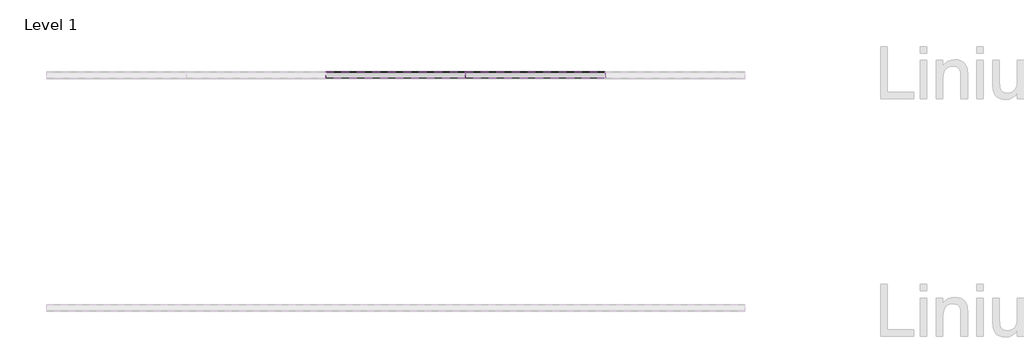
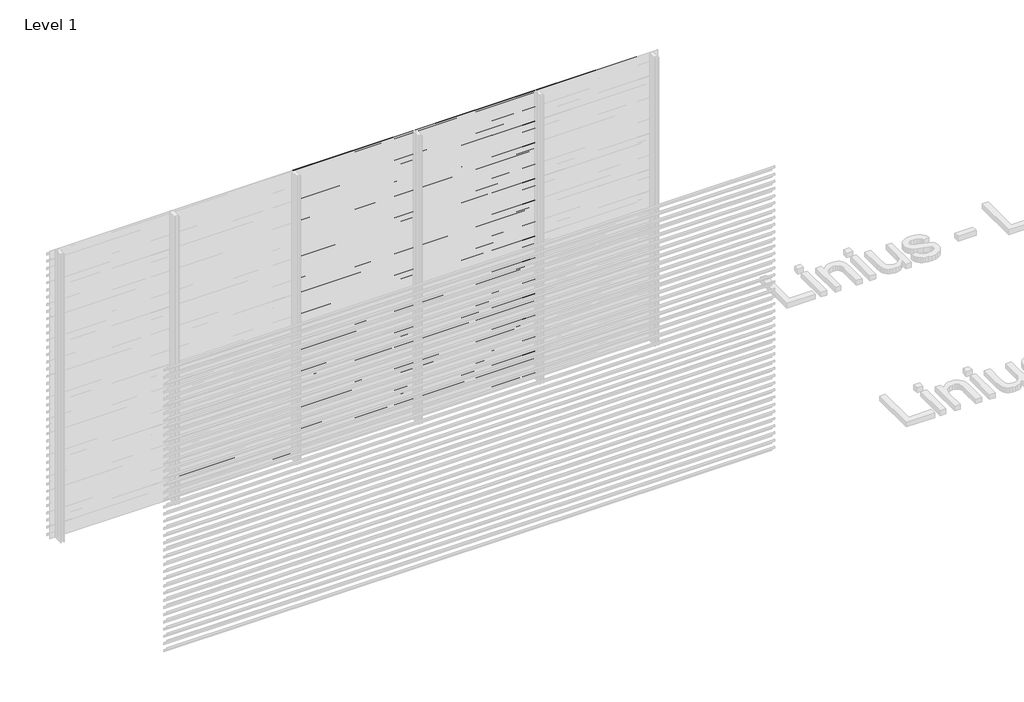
# One storey, part 38 of 55: 84 proxies.
"""IFC4 building model written with IfcOpenShell, lengths in millimetres."""

from ifc_helpers import new_model, si_unit, frame, origin, place, context, project, spatial, polyline, outline, extrude, element, save

model = new_model("IFC4")

# Units and contexts
model_context = context("Model", 3, world=origin())
ifc_project = project(units=[si_unit("LENGTHUNIT", "METRE", prefix="MILLI")], contexts=[model_context])

# Site, building, storey
site = spatial("IfcSite", under=ifc_project)
building = spatial("IfcBuilding", under=site)
storey = spatial("IfcBuildingStorey", under=building, Name="Level 1", Elevation=0.0)

# Proxies
placement = place(None, origin())
element("IfcBuildingElementProxy", 1, Name="Wall Sweeps", at=placement, inside=storey, context=model_context, shape_type="SweptSolid", body=[
    extrude(outline(polyline([(51581.0540136, 168.5), (51581.0540136, 148.5), (51579.8040136, 149.2216933), (51579.8040136, 167.7872415), (51526.0540136, 205.3158044), (51526.0540136, 225.0), (51527.3040136, 225.0), (51527.3040136, 206.0285629), (51581.0540136, 168.5)])), frame((1666.6208099, 0.0, 0.0), z_axis=(1.0, 0.0, 0.0), x_axis=(0.0, 1.0, 0.0)), (0.0, 0.0, 1.0), 1199.9999999),
])
element("IfcBuildingElementProxy", 2, Name="Wall Sweeps", at=placement, inside=storey, context=model_context, shape_type="SweptSolid", body=[
    extrude(outline(polyline([(51581.0540136, 93.5), (51581.0540136, 73.5), (51579.8040136, 74.2216933), (51579.8040136, 92.7872415), (51526.0540136, 130.3158044), (51526.0540136, 150.0), (51527.3040136, 150.0), (51527.3040136, 131.0285629), (51581.0540136, 93.5)])), frame((1666.6208099, 0.0, 0.0), z_axis=(1.0, 0.0, 0.0), x_axis=(0.0, 1.0, 0.0)), (0.0, 0.0, 1.0), 1199.9999999),
])
element("IfcBuildingElementProxy", 3, Name="Wall Sweeps", at=placement, inside=storey, context=model_context, shape_type="SweptSolid", body=[
    extrude(outline(polyline([(51581.0540136, 18.5), (51581.0540136, -1.5), (51579.8040136, -0.7783067), (51579.8040136, 17.7872415), (51526.0540136, 55.3158044), (51526.0540136, 75.0), (51527.3040136, 75.0), (51527.3040136, 56.0285629), (51581.0540136, 18.5)])), frame((1666.6208099, 0.0, 0.0), z_axis=(1.0, 0.0, 0.0), x_axis=(0.0, 1.0, 0.0)), (0.0, 0.0, 1.0), 1199.9999999),
])
element("IfcBuildingElementProxy", 4, Name="Wall Sweeps", at=placement, inside=storey, context=model_context, shape_type="SweptSolid", body=[
    extrude(outline(polyline([(51581.0540136, 2943.5), (51581.0540136, 2923.5), (51579.8040136, 2924.2216933), (51579.8040136, 2942.7872415), (51526.0540136, 2980.3158044), (51526.0540136, 3000.0), (51527.3040136, 3000.0), (51527.3040136, 2981.0285629), (51581.0540136, 2943.5)])), frame((2866.6208097, 0.0, 0.0), z_axis=(1.0, 0.0, 0.0), x_axis=(0.0, 1.0, 0.0)), (0.0, 0.0, 1.0), 1199.9999999),
])
element("IfcBuildingElementProxy", 5, Name="Wall Sweeps", at=placement, inside=storey, context=model_context, shape_type="SweptSolid", body=[
    extrude(outline(polyline([(51581.0540136, 2868.5), (51581.0540136, 2848.5), (51579.8040136, 2849.2216933), (51579.8040136, 2867.7872415), (51526.0540136, 2905.3158044), (51526.0540136, 2925.0), (51527.3040136, 2925.0), (51527.3040136, 2906.0285629), (51581.0540136, 2868.5)])), frame((2866.6208097, 0.0, 0.0), z_axis=(1.0, 0.0, 0.0), x_axis=(0.0, 1.0, 0.0)), (0.0, 0.0, 1.0), 1199.9999999),
])
element("IfcBuildingElementProxy", 6, Name="Wall Sweeps", at=placement, inside=storey, context=model_context, shape_type="SweptSolid", body=[
    extrude(outline(polyline([(51581.0540136, 2793.5), (51581.0540136, 2773.5), (51579.8040136, 2774.2216933), (51579.8040136, 2792.7872415), (51526.0540136, 2830.3158044), (51526.0540136, 2850.0), (51527.3040136, 2850.0), (51527.3040136, 2831.0285629), (51581.0540136, 2793.5)])), frame((2866.6208097, 0.0, 0.0), z_axis=(1.0, 0.0, 0.0), x_axis=(0.0, 1.0, 0.0)), (0.0, 0.0, 1.0), 1199.9999999),
])
element("IfcBuildingElementProxy", 7, Name="Wall Sweeps", at=placement, inside=storey, context=model_context, shape_type="SweptSolid", body=[
    extrude(outline(polyline([(51581.0540136, 2718.5), (51581.0540136, 2698.5), (51579.8040136, 2699.2216933), (51579.8040136, 2717.7872415), (51526.0540136, 2755.3158044), (51526.0540136, 2775.0), (51527.3040136, 2775.0), (51527.3040136, 2756.0285629), (51581.0540136, 2718.5)])), frame((2866.6208097, 0.0, 0.0), z_axis=(1.0, 0.0, 0.0), x_axis=(0.0, 1.0, 0.0)), (0.0, 0.0, 1.0), 1199.9999999),
])
element("IfcBuildingElementProxy", 8, Name="Wall Sweeps", at=placement, inside=storey, context=model_context, shape_type="SweptSolid", body=[
    extrude(outline(polyline([(51581.0540136, 2643.5), (51581.0540136, 2623.5), (51579.8040136, 2624.2216933), (51579.8040136, 2642.7872415), (51526.0540136, 2680.3158044), (51526.0540136, 2700.0), (51527.3040136, 2700.0), (51527.3040136, 2681.0285629), (51581.0540136, 2643.5)])), frame((2866.6208097, 0.0, 0.0), z_axis=(1.0, 0.0, 0.0), x_axis=(0.0, 1.0, 0.0)), (0.0, 0.0, 1.0), 1199.9999999),
])
element("IfcBuildingElementProxy", 9, Name="Wall Sweeps", at=placement, inside=storey, context=model_context, shape_type="SweptSolid", body=[
    extrude(outline(polyline([(51581.0540136, 2568.5), (51581.0540136, 2548.5), (51579.8040136, 2549.2216933), (51579.8040136, 2567.7872415), (51526.0540136, 2605.3158044), (51526.0540136, 2625.0), (51527.3040136, 2625.0), (51527.3040136, 2606.0285629), (51581.0540136, 2568.5)])), frame((2866.6208097, 0.0, 0.0), z_axis=(1.0, 0.0, 0.0), x_axis=(0.0, 1.0, 0.0)), (0.0, 0.0, 1.0), 1199.9999999),
])
element("IfcBuildingElementProxy", 10, Name="Wall Sweeps", at=placement, inside=storey, context=model_context, shape_type="SweptSolid", body=[
    extrude(outline(polyline([(51581.0540136, 2493.5), (51581.0540136, 2473.5), (51579.8040136, 2474.2216933), (51579.8040136, 2492.7872415), (51526.0540136, 2530.3158044), (51526.0540136, 2550.0), (51527.3040136, 2550.0), (51527.3040136, 2531.0285629), (51581.0540136, 2493.5)])), frame((2866.6208097, 0.0, 0.0), z_axis=(1.0, 0.0, 0.0), x_axis=(0.0, 1.0, 0.0)), (0.0, 0.0, 1.0), 1199.9999999),
])
element("IfcBuildingElementProxy", 11, Name="Wall Sweeps", at=placement, inside=storey, context=model_context, shape_type="SweptSolid", body=[
    extrude(outline(polyline([(51581.0540136, 2418.5), (51581.0540136, 2398.5), (51579.8040136, 2399.2216933), (51579.8040136, 2417.7872415), (51526.0540136, 2455.3158044), (51526.0540136, 2475.0), (51527.3040136, 2475.0), (51527.3040136, 2456.0285629), (51581.0540136, 2418.5)])), frame((2866.6208097, 0.0, 0.0), z_axis=(1.0, 0.0, 0.0), x_axis=(0.0, 1.0, 0.0)), (0.0, 0.0, 1.0), 1199.9999999),
])
element("IfcBuildingElementProxy", 12, Name="Wall Sweeps", at=placement, inside=storey, context=model_context, shape_type="SweptSolid", body=[
    extrude(outline(polyline([(51581.0540136, 2343.5), (51581.0540136, 2323.5), (51579.8040136, 2324.2216933), (51579.8040136, 2342.7872415), (51526.0540136, 2380.3158044), (51526.0540136, 2400.0), (51527.3040136, 2400.0), (51527.3040136, 2381.0285629), (51581.0540136, 2343.5)])), frame((2866.6208097, 0.0, 0.0), z_axis=(1.0, 0.0, 0.0), x_axis=(0.0, 1.0, 0.0)), (0.0, 0.0, 1.0), 1199.9999999),
])
element("IfcBuildingElementProxy", 13, Name="Wall Sweeps", at=placement, inside=storey, context=model_context, shape_type="SweptSolid", body=[
    extrude(outline(polyline([(51581.0540136, 2268.5), (51581.0540136, 2248.5), (51579.8040136, 2249.2216933), (51579.8040136, 2267.7872415), (51526.0540136, 2305.3158044), (51526.0540136, 2325.0), (51527.3040136, 2325.0), (51527.3040136, 2306.0285629), (51581.0540136, 2268.5)])), frame((2866.6208097, 0.0, 0.0), z_axis=(1.0, 0.0, 0.0), x_axis=(0.0, 1.0, 0.0)), (0.0, 0.0, 1.0), 1199.9999999),
])
element("IfcBuildingElementProxy", 14, Name="Wall Sweeps", at=placement, inside=storey, context=model_context, shape_type="SweptSolid", body=[
    extrude(outline(polyline([(51581.0540136, 2193.5), (51581.0540136, 2173.5), (51579.8040136, 2174.2216933), (51579.8040136, 2192.7872415), (51526.0540136, 2230.3158044), (51526.0540136, 2250.0), (51527.3040136, 2250.0), (51527.3040136, 2231.0285629), (51581.0540136, 2193.5)])), frame((2866.6208097, 0.0, 0.0), z_axis=(1.0, 0.0, 0.0), x_axis=(0.0, 1.0, 0.0)), (0.0, 0.0, 1.0), 1199.9999999),
])
element("IfcBuildingElementProxy", 15, Name="Wall Sweeps", at=placement, inside=storey, context=model_context, shape_type="SweptSolid", body=[
    extrude(outline(polyline([(51581.0540136, 2118.5), (51581.0540136, 2098.5), (51579.8040136, 2099.2216933), (51579.8040136, 2117.7872415), (51526.0540136, 2155.3158044), (51526.0540136, 2175.0), (51527.3040136, 2175.0), (51527.3040136, 2156.0285629), (51581.0540136, 2118.5)])), frame((2866.6208097, 0.0, 0.0), z_axis=(1.0, 0.0, 0.0), x_axis=(0.0, 1.0, 0.0)), (0.0, 0.0, 1.0), 1199.9999999),
])
element("IfcBuildingElementProxy", 16, Name="Wall Sweeps", at=placement, inside=storey, context=model_context, shape_type="SweptSolid", body=[
    extrude(outline(polyline([(51581.0540136, 2043.5), (51581.0540136, 2023.5), (51579.8040136, 2024.2216933), (51579.8040136, 2042.7872415), (51526.0540136, 2080.3158044), (51526.0540136, 2100.0), (51527.3040136, 2100.0), (51527.3040136, 2081.0285629), (51581.0540136, 2043.5)])), frame((2866.6208097, 0.0, 0.0), z_axis=(1.0, 0.0, 0.0), x_axis=(0.0, 1.0, 0.0)), (0.0, 0.0, 1.0), 1199.9999999),
])
element("IfcBuildingElementProxy", 17, Name="Wall Sweeps", at=placement, inside=storey, context=model_context, shape_type="SweptSolid", body=[
    extrude(outline(polyline([(51581.0540136, 1968.5), (51581.0540136, 1948.5), (51579.8040136, 1949.2216933), (51579.8040136, 1967.7872415), (51526.0540136, 2005.3158044), (51526.0540136, 2025.0), (51527.3040136, 2025.0), (51527.3040136, 2006.0285629), (51581.0540136, 1968.5)])), frame((2866.6208097, 0.0, 0.0), z_axis=(1.0, 0.0, 0.0), x_axis=(0.0, 1.0, 0.0)), (0.0, 0.0, 1.0), 1199.9999999),
])
element("IfcBuildingElementProxy", 18, Name="Wall Sweeps", at=placement, inside=storey, context=model_context, shape_type="SweptSolid", body=[
    extrude(outline(polyline([(51581.0540136, 1893.5), (51581.0540136, 1873.5), (51579.8040136, 1874.2216933), (51579.8040136, 1892.7872415), (51526.0540136, 1930.3158044), (51526.0540136, 1950.0), (51527.3040136, 1950.0), (51527.3040136, 1931.0285629), (51581.0540136, 1893.5)])), frame((2866.6208097, 0.0, 0.0), z_axis=(1.0, 0.0, 0.0), x_axis=(0.0, 1.0, 0.0)), (0.0, 0.0, 1.0), 1199.9999999),
])
element("IfcBuildingElementProxy", 19, Name="Wall Sweeps", at=placement, inside=storey, context=model_context, shape_type="SweptSolid", body=[
    extrude(outline(polyline([(51581.0540136, 1818.5), (51581.0540136, 1798.5), (51579.8040136, 1799.2216933), (51579.8040136, 1817.7872415), (51526.0540136, 1855.3158044), (51526.0540136, 1875.0), (51527.3040136, 1875.0), (51527.3040136, 1856.0285629), (51581.0540136, 1818.5)])), frame((2866.6208097, 0.0, 0.0), z_axis=(1.0, 0.0, 0.0), x_axis=(0.0, 1.0, 0.0)), (0.0, 0.0, 1.0), 1199.9999999),
])
element("IfcBuildingElementProxy", 20, Name="Wall Sweeps", at=placement, inside=storey, context=model_context, shape_type="SweptSolid", body=[
    extrude(outline(polyline([(51581.0540136, 1743.5), (51581.0540136, 1723.5), (51579.8040136, 1724.2216933), (51579.8040136, 1742.7872415), (51526.0540136, 1780.3158044), (51526.0540136, 1800.0), (51527.3040136, 1800.0), (51527.3040136, 1781.0285629), (51581.0540136, 1743.5)])), frame((2866.6208097, 0.0, 0.0), z_axis=(1.0, 0.0, 0.0), x_axis=(0.0, 1.0, 0.0)), (0.0, 0.0, 1.0), 1199.9999999),
])
element("IfcBuildingElementProxy", 21, Name="Wall Sweeps", at=placement, inside=storey, context=model_context, shape_type="SweptSolid", body=[
    extrude(outline(polyline([(51581.0540136, 1668.5), (51581.0540136, 1648.5), (51579.8040136, 1649.2216933), (51579.8040136, 1667.7872415), (51526.0540136, 1705.3158044), (51526.0540136, 1725.0), (51527.3040136, 1725.0), (51527.3040136, 1706.0285629), (51581.0540136, 1668.5)])), frame((2866.6208097, 0.0, 0.0), z_axis=(1.0, 0.0, 0.0), x_axis=(0.0, 1.0, 0.0)), (0.0, 0.0, 1.0), 1199.9999999),
])
element("IfcBuildingElementProxy", 22, Name="Wall Sweeps", at=placement, inside=storey, context=model_context, shape_type="SweptSolid", body=[
    extrude(outline(polyline([(51581.0540136, 1593.5), (51581.0540136, 1573.5), (51579.8040136, 1574.2216933), (51579.8040136, 1592.7872415), (51526.0540136, 1630.3158044), (51526.0540136, 1650.0), (51527.3040136, 1650.0), (51527.3040136, 1631.0285629), (51581.0540136, 1593.5)])), frame((2866.6208097, 0.0, 0.0), z_axis=(1.0, 0.0, 0.0), x_axis=(0.0, 1.0, 0.0)), (0.0, 0.0, 1.0), 1199.9999999),
])
element("IfcBuildingElementProxy", 23, Name="Wall Sweeps", at=placement, inside=storey, context=model_context, shape_type="SweptSolid", body=[
    extrude(outline(polyline([(51581.0540136, 1518.5), (51581.0540136, 1498.5), (51579.8040136, 1499.2216933), (51579.8040136, 1517.7872415), (51526.0540136, 1555.3158044), (51526.0540136, 1575.0), (51527.3040136, 1575.0), (51527.3040136, 1556.0285629), (51581.0540136, 1518.5)])), frame((2866.6208097, 0.0, 0.0), z_axis=(1.0, 0.0, 0.0), x_axis=(0.0, 1.0, 0.0)), (0.0, 0.0, 1.0), 1199.9999999),
])
element("IfcBuildingElementProxy", 24, Name="Wall Sweeps", at=placement, inside=storey, context=model_context, shape_type="SweptSolid", body=[
    extrude(outline(polyline([(51581.0540136, 1443.5), (51581.0540136, 1423.5), (51579.8040136, 1424.2216933), (51579.8040136, 1442.7872415), (51526.0540136, 1480.3158044), (51526.0540136, 1500.0), (51527.3040136, 1500.0), (51527.3040136, 1481.0285629), (51581.0540136, 1443.5)])), frame((2866.6208097, 0.0, 0.0), z_axis=(1.0, 0.0, 0.0), x_axis=(0.0, 1.0, 0.0)), (0.0, 0.0, 1.0), 1199.9999999),
])
element("IfcBuildingElementProxy", 25, Name="Wall Sweeps", at=placement, inside=storey, context=model_context, shape_type="SweptSolid", body=[
    extrude(outline(polyline([(51581.0540136, 1368.5), (51581.0540136, 1348.5), (51579.8040136, 1349.2216933), (51579.8040136, 1367.7872415), (51526.0540136, 1405.3158044), (51526.0540136, 1425.0), (51527.3040136, 1425.0), (51527.3040136, 1406.0285629), (51581.0540136, 1368.5)])), frame((2866.6208097, 0.0, 0.0), z_axis=(1.0, 0.0, 0.0), x_axis=(0.0, 1.0, 0.0)), (0.0, 0.0, 1.0), 1199.9999999),
])
element("IfcBuildingElementProxy", 26, Name="Wall Sweeps", at=placement, inside=storey, context=model_context, shape_type="SweptSolid", body=[
    extrude(outline(polyline([(51581.0540136, 1293.5), (51581.0540136, 1273.5), (51579.8040136, 1274.2216933), (51579.8040136, 1292.7872415), (51526.0540136, 1330.3158044), (51526.0540136, 1350.0), (51527.3040136, 1350.0), (51527.3040136, 1331.0285629), (51581.0540136, 1293.5)])), frame((2866.6208097, 0.0, 0.0), z_axis=(1.0, 0.0, 0.0), x_axis=(0.0, 1.0, 0.0)), (0.0, 0.0, 1.0), 1199.9999999),
])
element("IfcBuildingElementProxy", 27, Name="Wall Sweeps", at=placement, inside=storey, context=model_context, shape_type="SweptSolid", body=[
    extrude(outline(polyline([(51581.0540136, 1218.5), (51581.0540136, 1198.5), (51579.8040136, 1199.2216933), (51579.8040136, 1217.7872415), (51526.0540136, 1255.3158044), (51526.0540136, 1275.0), (51527.3040136, 1275.0), (51527.3040136, 1256.0285629), (51581.0540136, 1218.5)])), frame((2866.6208097, 0.0, 0.0), z_axis=(1.0, 0.0, 0.0), x_axis=(0.0, 1.0, 0.0)), (0.0, 0.0, 1.0), 1199.9999999),
])
element("IfcBuildingElementProxy", 28, Name="Wall Sweeps", at=placement, inside=storey, context=model_context, shape_type="SweptSolid", body=[
    extrude(outline(polyline([(51581.0540136, 1143.5), (51581.0540136, 1123.5), (51579.8040136, 1124.2216933), (51579.8040136, 1142.7872415), (51526.0540136, 1180.3158044), (51526.0540136, 1200.0), (51527.3040136, 1200.0), (51527.3040136, 1181.0285629), (51581.0540136, 1143.5)])), frame((2866.6208097, 0.0, 0.0), z_axis=(1.0, 0.0, 0.0), x_axis=(0.0, 1.0, 0.0)), (0.0, 0.0, 1.0), 1199.9999999),
])
element("IfcBuildingElementProxy", 29, Name="Wall Sweeps", at=placement, inside=storey, context=model_context, shape_type="SweptSolid", body=[
    extrude(outline(polyline([(51581.0540136, 1068.5), (51581.0540136, 1048.5), (51579.8040136, 1049.2216933), (51579.8040136, 1067.7872415), (51526.0540136, 1105.3158044), (51526.0540136, 1125.0), (51527.3040136, 1125.0), (51527.3040136, 1106.0285629), (51581.0540136, 1068.5)])), frame((2866.6208097, 0.0, 0.0), z_axis=(1.0, 0.0, 0.0), x_axis=(0.0, 1.0, 0.0)), (0.0, 0.0, 1.0), 1199.9999999),
])
element("IfcBuildingElementProxy", 30, Name="Wall Sweeps", at=placement, inside=storey, context=model_context, shape_type="SweptSolid", body=[
    extrude(outline(polyline([(51581.0540136, 993.5), (51581.0540136, 973.5), (51579.8040136, 974.2216933), (51579.8040136, 992.7872415), (51526.0540136, 1030.3158044), (51526.0540136, 1050.0), (51527.3040136, 1050.0), (51527.3040136, 1031.0285629), (51581.0540136, 993.5)])), frame((2866.6208097, 0.0, 0.0), z_axis=(1.0, 0.0, 0.0), x_axis=(0.0, 1.0, 0.0)), (0.0, 0.0, 1.0), 1199.9999999),
])
element("IfcBuildingElementProxy", 31, Name="Wall Sweeps", at=placement, inside=storey, context=model_context, shape_type="SweptSolid", body=[
    extrude(outline(polyline([(51581.0540136, 918.5), (51581.0540136, 898.5), (51579.8040136, 899.2216933), (51579.8040136, 917.7872415), (51526.0540136, 955.3158044), (51526.0540136, 975.0), (51527.3040136, 975.0), (51527.3040136, 956.0285629), (51581.0540136, 918.5)])), frame((2866.6208097, 0.0, 0.0), z_axis=(1.0, 0.0, 0.0), x_axis=(0.0, 1.0, 0.0)), (0.0, 0.0, 1.0), 1199.9999999),
])
element("IfcBuildingElementProxy", 32, Name="Wall Sweeps", at=placement, inside=storey, context=model_context, shape_type="SweptSolid", body=[
    extrude(outline(polyline([(51581.0540136, 843.5), (51581.0540136, 823.5), (51579.8040136, 824.2216933), (51579.8040136, 842.7872415), (51526.0540136, 880.3158044), (51526.0540136, 900.0), (51527.3040136, 900.0), (51527.3040136, 881.0285629), (51581.0540136, 843.5)])), frame((2866.6208097, 0.0, 0.0), z_axis=(1.0, 0.0, 0.0), x_axis=(0.0, 1.0, 0.0)), (0.0, 0.0, 1.0), 1199.9999999),
])
element("IfcBuildingElementProxy", 33, Name="Wall Sweeps", at=placement, inside=storey, context=model_context, shape_type="SweptSolid", body=[
    extrude(outline(polyline([(51581.0540136, 768.5), (51581.0540136, 748.5), (51579.8040136, 749.2216933), (51579.8040136, 767.7872415), (51526.0540136, 805.3158044), (51526.0540136, 825.0), (51527.3040136, 825.0), (51527.3040136, 806.0285629), (51581.0540136, 768.5)])), frame((2866.6208097, 0.0, 0.0), z_axis=(1.0, 0.0, 0.0), x_axis=(0.0, 1.0, 0.0)), (0.0, 0.0, 1.0), 1199.9999999),
])
element("IfcBuildingElementProxy", 34, Name="Wall Sweeps", at=placement, inside=storey, context=model_context, shape_type="SweptSolid", body=[
    extrude(outline(polyline([(51581.0540136, 693.5), (51581.0540136, 673.5), (51579.8040136, 674.2216933), (51579.8040136, 692.7872415), (51526.0540136, 730.3158044), (51526.0540136, 750.0), (51527.3040136, 750.0), (51527.3040136, 731.0285629), (51581.0540136, 693.5)])), frame((2866.6208097, 0.0, 0.0), z_axis=(1.0, 0.0, 0.0), x_axis=(0.0, 1.0, 0.0)), (0.0, 0.0, 1.0), 1199.9999999),
])
element("IfcBuildingElementProxy", 35, Name="Wall Sweeps", at=placement, inside=storey, context=model_context, shape_type="SweptSolid", body=[
    extrude(outline(polyline([(51581.0540136, 618.5), (51581.0540136, 598.5), (51579.8040136, 599.2216933), (51579.8040136, 617.7872415), (51526.0540136, 655.3158044), (51526.0540136, 675.0), (51527.3040136, 675.0), (51527.3040136, 656.0285629), (51581.0540136, 618.5)])), frame((2866.6208097, 0.0, 0.0), z_axis=(1.0, 0.0, 0.0), x_axis=(0.0, 1.0, 0.0)), (0.0, 0.0, 1.0), 1199.9999999),
])
element("IfcBuildingElementProxy", 36, Name="Wall Sweeps", at=placement, inside=storey, context=model_context, shape_type="SweptSolid", body=[
    extrude(outline(polyline([(51581.0540136, 543.5), (51581.0540136, 523.5), (51579.8040136, 524.2216933), (51579.8040136, 542.7872415), (51526.0540136, 580.3158044), (51526.0540136, 600.0), (51527.3040136, 600.0), (51527.3040136, 581.0285629), (51581.0540136, 543.5)])), frame((2866.6208097, 0.0, 0.0), z_axis=(1.0, 0.0, 0.0), x_axis=(0.0, 1.0, 0.0)), (0.0, 0.0, 1.0), 1199.9999999),
])
element("IfcBuildingElementProxy", 37, Name="Wall Sweeps", at=placement, inside=storey, context=model_context, shape_type="SweptSolid", body=[
    extrude(outline(polyline([(51581.0540136, 468.5), (51581.0540136, 448.5), (51579.8040136, 449.2216933), (51579.8040136, 467.7872415), (51526.0540136, 505.3158044), (51526.0540136, 525.0), (51527.3040136, 525.0), (51527.3040136, 506.0285629), (51581.0540136, 468.5)])), frame((2866.6208097, 0.0, 0.0), z_axis=(1.0, 0.0, 0.0), x_axis=(0.0, 1.0, 0.0)), (0.0, 0.0, 1.0), 1199.9999999),
])
element("IfcBuildingElementProxy", 38, Name="Wall Sweeps", at=placement, inside=storey, context=model_context, shape_type="SweptSolid", body=[
    extrude(outline(polyline([(51581.0540136, 393.5), (51581.0540136, 373.5), (51579.8040136, 374.2216933), (51579.8040136, 392.7872415), (51526.0540136, 430.3158044), (51526.0540136, 450.0), (51527.3040136, 450.0), (51527.3040136, 431.0285629), (51581.0540136, 393.5)])), frame((2866.6208097, 0.0, 0.0), z_axis=(1.0, 0.0, 0.0), x_axis=(0.0, 1.0, 0.0)), (0.0, 0.0, 1.0), 1199.9999999),
])
element("IfcBuildingElementProxy", 39, Name="Wall Sweeps", at=placement, inside=storey, context=model_context, shape_type="SweptSolid", body=[
    extrude(outline(polyline([(51581.0540136, 318.5), (51581.0540136, 298.5), (51579.8040136, 299.2216933), (51579.8040136, 317.7872415), (51526.0540136, 355.3158044), (51526.0540136, 375.0), (51527.3040136, 375.0), (51527.3040136, 356.0285629), (51581.0540136, 318.5)])), frame((2866.6208097, 0.0, 0.0), z_axis=(1.0, 0.0, 0.0), x_axis=(0.0, 1.0, 0.0)), (0.0, 0.0, 1.0), 1199.9999999),
])
element("IfcBuildingElementProxy", 40, Name="Wall Sweeps", at=placement, inside=storey, context=model_context, shape_type="SweptSolid", body=[
    extrude(outline(polyline([(51581.0540136, 243.5), (51581.0540136, 223.5), (51579.8040136, 224.2216933), (51579.8040136, 242.7872415), (51526.0540136, 280.3158044), (51526.0540136, 300.0), (51527.3040136, 300.0), (51527.3040136, 281.0285629), (51581.0540136, 243.5)])), frame((2866.6208097, 0.0, 0.0), z_axis=(1.0, 0.0, 0.0), x_axis=(0.0, 1.0, 0.0)), (0.0, 0.0, 1.0), 1199.9999999),
])
element("IfcBuildingElementProxy", 41, Name="Wall Sweeps", at=placement, inside=storey, context=model_context, shape_type="SweptSolid", body=[
    extrude(outline(polyline([(51581.0540136, 168.5), (51581.0540136, 148.5), (51579.8040136, 149.2216933), (51579.8040136, 167.7872415), (51526.0540136, 205.3158044), (51526.0540136, 225.0), (51527.3040136, 225.0), (51527.3040136, 206.0285629), (51581.0540136, 168.5)])), frame((2866.6208097, 0.0, 0.0), z_axis=(1.0, 0.0, 0.0), x_axis=(0.0, 1.0, 0.0)), (0.0, 0.0, 1.0), 1199.9999999),
])
element("IfcBuildingElementProxy", 42, Name="Wall Sweeps", at=placement, inside=storey, context=model_context, shape_type="SweptSolid", body=[
    extrude(outline(polyline([(51581.0540136, 93.5), (51581.0540136, 73.5), (51579.8040136, 74.2216933), (51579.8040136, 92.7872415), (51526.0540136, 130.3158044), (51526.0540136, 150.0), (51527.3040136, 150.0), (51527.3040136, 131.0285629), (51581.0540136, 93.5)])), frame((2866.6208097, 0.0, 0.0), z_axis=(1.0, 0.0, 0.0), x_axis=(0.0, 1.0, 0.0)), (0.0, 0.0, 1.0), 1199.9999999),
])
element("IfcBuildingElementProxy", 43, Name="Wall Sweeps", at=placement, inside=storey, context=model_context, shape_type="SweptSolid", body=[
    extrude(outline(polyline([(51581.0540136, 18.5), (51581.0540136, -1.5), (51579.8040136, -0.7783067), (51579.8040136, 17.7872415), (51526.0540136, 55.3158044), (51526.0540136, 75.0), (51527.3040136, 75.0), (51527.3040136, 56.0285629), (51581.0540136, 18.5)])), frame((2866.6208097, 0.0, 0.0), z_axis=(1.0, 0.0, 0.0), x_axis=(0.0, 1.0, 0.0)), (0.0, 0.0, 1.0), 1199.9999999),
])
element("IfcBuildingElementProxy", 44, Name="Wall Sweeps", at=placement, inside=storey, context=model_context, shape_type="SweptSolid", body=[
    extrude(outline(polyline([(51581.0540136, 2943.5), (51581.0540136, 2923.5), (51579.8040136, 2924.2216933), (51579.8040136, 2942.7872415), (51526.0540136, 2980.3158044), (51526.0540136, 3000.0), (51527.3040136, 3000.0), (51527.3040136, 2981.0285629), (51581.0540136, 2943.5)])), frame((5266.6208095, 0.0, 0.0), z_axis=(1.0, 0.0, 0.0), x_axis=(0.0, 1.0, 0.0)), (0.0, 0.0, 1.0), 1200.0000002),
])
element("IfcBuildingElementProxy", 45, Name="Wall Sweeps", at=placement, inside=storey, context=model_context, shape_type="SweptSolid", body=[
    extrude(outline(polyline([(51581.0540136, 2943.5), (51581.0540136, 2923.5), (51579.8040136, 2924.2216933), (51579.8040136, 2942.7872415), (51526.0540136, 2980.3158044), (51526.0540136, 3000.0), (51527.3040136, 3000.0), (51527.3040136, 2981.0285629), (51581.0540136, 2943.5)])), frame((4066.6208096, 0.0, 0.0), z_axis=(1.0, 0.0, 0.0), x_axis=(0.0, 1.0, 0.0)), (0.0, 0.0, 1.0), 1199.9999999),
])
element("IfcBuildingElementProxy", 46, Name="Wall Sweeps", at=placement, inside=storey, context=model_context, shape_type="SweptSolid", body=[
    extrude(outline(polyline([(51581.0540136, 2868.5), (51581.0540136, 2848.5), (51579.8040136, 2849.2216933), (51579.8040136, 2867.7872415), (51526.0540136, 2905.3158044), (51526.0540136, 2925.0), (51527.3040136, 2925.0), (51527.3040136, 2906.0285629), (51581.0540136, 2868.5)])), frame((4066.6208096, 0.0, 0.0), z_axis=(1.0, 0.0, 0.0), x_axis=(0.0, 1.0, 0.0)), (0.0, 0.0, 1.0), 1199.9999999),
])
element("IfcBuildingElementProxy", 47, Name="Wall Sweeps", at=placement, inside=storey, context=model_context, shape_type="SweptSolid", body=[
    extrude(outline(polyline([(51581.0540136, 2793.5), (51581.0540136, 2773.5), (51579.8040136, 2774.2216933), (51579.8040136, 2792.7872415), (51526.0540136, 2830.3158044), (51526.0540136, 2850.0), (51527.3040136, 2850.0), (51527.3040136, 2831.0285629), (51581.0540136, 2793.5)])), frame((4066.6208096, 0.0, 0.0), z_axis=(1.0, 0.0, 0.0), x_axis=(0.0, 1.0, 0.0)), (0.0, 0.0, 1.0), 1199.9999999),
])
element("IfcBuildingElementProxy", 48, Name="Wall Sweeps", at=placement, inside=storey, context=model_context, shape_type="SweptSolid", body=[
    extrude(outline(polyline([(51581.0540136, 2718.5), (51581.0540136, 2698.5), (51579.8040136, 2699.2216933), (51579.8040136, 2717.7872415), (51526.0540136, 2755.3158044), (51526.0540136, 2775.0), (51527.3040136, 2775.0), (51527.3040136, 2756.0285629), (51581.0540136, 2718.5)])), frame((4066.6208096, 0.0, 0.0), z_axis=(1.0, 0.0, 0.0), x_axis=(0.0, 1.0, 0.0)), (0.0, 0.0, 1.0), 1199.9999999),
])
element("IfcBuildingElementProxy", 49, Name="Wall Sweeps", at=placement, inside=storey, context=model_context, shape_type="SweptSolid", body=[
    extrude(outline(polyline([(51581.0540136, 2643.5), (51581.0540136, 2623.5), (51579.8040136, 2624.2216933), (51579.8040136, 2642.7872415), (51526.0540136, 2680.3158044), (51526.0540136, 2700.0), (51527.3040136, 2700.0), (51527.3040136, 2681.0285629), (51581.0540136, 2643.5)])), frame((4066.6208096, 0.0, 0.0), z_axis=(1.0, 0.0, 0.0), x_axis=(0.0, 1.0, 0.0)), (0.0, 0.0, 1.0), 1199.9999999),
])
element("IfcBuildingElementProxy", 50, Name="Wall Sweeps", at=placement, inside=storey, context=model_context, shape_type="SweptSolid", body=[
    extrude(outline(polyline([(51581.0540136, 2568.5), (51581.0540136, 2548.5), (51579.8040136, 2549.2216933), (51579.8040136, 2567.7872415), (51526.0540136, 2605.3158044), (51526.0540136, 2625.0), (51527.3040136, 2625.0), (51527.3040136, 2606.0285629), (51581.0540136, 2568.5)])), frame((4066.6208096, 0.0, 0.0), z_axis=(1.0, 0.0, 0.0), x_axis=(0.0, 1.0, 0.0)), (0.0, 0.0, 1.0), 1199.9999999),
])
element("IfcBuildingElementProxy", 51, Name="Wall Sweeps", at=placement, inside=storey, context=model_context, shape_type="SweptSolid", body=[
    extrude(outline(polyline([(51581.0540136, 2493.5), (51581.0540136, 2473.5), (51579.8040136, 2474.2216933), (51579.8040136, 2492.7872415), (51526.0540136, 2530.3158044), (51526.0540136, 2550.0), (51527.3040136, 2550.0), (51527.3040136, 2531.0285629), (51581.0540136, 2493.5)])), frame((4066.6208096, 0.0, 0.0), z_axis=(1.0, 0.0, 0.0), x_axis=(0.0, 1.0, 0.0)), (0.0, 0.0, 1.0), 1199.9999999),
])
element("IfcBuildingElementProxy", 52, Name="Wall Sweeps", at=placement, inside=storey, context=model_context, shape_type="SweptSolid", body=[
    extrude(outline(polyline([(51581.0540136, 2418.5), (51581.0540136, 2398.5), (51579.8040136, 2399.2216933), (51579.8040136, 2417.7872415), (51526.0540136, 2455.3158044), (51526.0540136, 2475.0), (51527.3040136, 2475.0), (51527.3040136, 2456.0285629), (51581.0540136, 2418.5)])), frame((4066.6208096, 0.0, 0.0), z_axis=(1.0, 0.0, 0.0), x_axis=(0.0, 1.0, 0.0)), (0.0, 0.0, 1.0), 1199.9999999),
])
element("IfcBuildingElementProxy", 53, Name="Wall Sweeps", at=placement, inside=storey, context=model_context, shape_type="SweptSolid", body=[
    extrude(outline(polyline([(51581.0540136, 2343.5), (51581.0540136, 2323.5), (51579.8040136, 2324.2216933), (51579.8040136, 2342.7872415), (51526.0540136, 2380.3158044), (51526.0540136, 2400.0), (51527.3040136, 2400.0), (51527.3040136, 2381.0285629), (51581.0540136, 2343.5)])), frame((4066.6208096, 0.0, 0.0), z_axis=(1.0, 0.0, 0.0), x_axis=(0.0, 1.0, 0.0)), (0.0, 0.0, 1.0), 1199.9999999),
])
element("IfcBuildingElementProxy", 54, Name="Wall Sweeps", at=placement, inside=storey, context=model_context, shape_type="SweptSolid", body=[
    extrude(outline(polyline([(51581.0540136, 2268.5), (51581.0540136, 2248.5), (51579.8040136, 2249.2216933), (51579.8040136, 2267.7872415), (51526.0540136, 2305.3158044), (51526.0540136, 2325.0), (51527.3040136, 2325.0), (51527.3040136, 2306.0285629), (51581.0540136, 2268.5)])), frame((4066.6208096, 0.0, 0.0), z_axis=(1.0, 0.0, 0.0), x_axis=(0.0, 1.0, 0.0)), (0.0, 0.0, 1.0), 1199.9999999),
])
element("IfcBuildingElementProxy", 55, Name="Wall Sweeps", at=placement, inside=storey, context=model_context, shape_type="SweptSolid", body=[
    extrude(outline(polyline([(51581.0540136, 2193.5), (51581.0540136, 2173.5), (51579.8040136, 2174.2216933), (51579.8040136, 2192.7872415), (51526.0540136, 2230.3158044), (51526.0540136, 2250.0), (51527.3040136, 2250.0), (51527.3040136, 2231.0285629), (51581.0540136, 2193.5)])), frame((4066.6208096, 0.0, 0.0), z_axis=(1.0, 0.0, 0.0), x_axis=(0.0, 1.0, 0.0)), (0.0, 0.0, 1.0), 1199.9999999),
])
element("IfcBuildingElementProxy", 56, Name="Wall Sweeps", at=placement, inside=storey, context=model_context, shape_type="SweptSolid", body=[
    extrude(outline(polyline([(51581.0540136, 2118.5), (51581.0540136, 2098.5), (51579.8040136, 2099.2216933), (51579.8040136, 2117.7872415), (51526.0540136, 2155.3158044), (51526.0540136, 2175.0), (51527.3040136, 2175.0), (51527.3040136, 2156.0285629), (51581.0540136, 2118.5)])), frame((4066.6208096, 0.0, 0.0), z_axis=(1.0, 0.0, 0.0), x_axis=(0.0, 1.0, 0.0)), (0.0, 0.0, 1.0), 1199.9999999),
])
element("IfcBuildingElementProxy", 57, Name="Wall Sweeps", at=placement, inside=storey, context=model_context, shape_type="SweptSolid", body=[
    extrude(outline(polyline([(51581.0540136, 2043.5), (51581.0540136, 2023.5), (51579.8040136, 2024.2216933), (51579.8040136, 2042.7872415), (51526.0540136, 2080.3158044), (51526.0540136, 2100.0), (51527.3040136, 2100.0), (51527.3040136, 2081.0285629), (51581.0540136, 2043.5)])), frame((4066.6208096, 0.0, 0.0), z_axis=(1.0, 0.0, 0.0), x_axis=(0.0, 1.0, 0.0)), (0.0, 0.0, 1.0), 1199.9999999),
])
element("IfcBuildingElementProxy", 58, Name="Wall Sweeps", at=placement, inside=storey, context=model_context, shape_type="SweptSolid", body=[
    extrude(outline(polyline([(51581.0540136, 1968.5), (51581.0540136, 1948.5), (51579.8040136, 1949.2216933), (51579.8040136, 1967.7872415), (51526.0540136, 2005.3158044), (51526.0540136, 2025.0), (51527.3040136, 2025.0), (51527.3040136, 2006.0285629), (51581.0540136, 1968.5)])), frame((4066.6208096, 0.0, 0.0), z_axis=(1.0, 0.0, 0.0), x_axis=(0.0, 1.0, 0.0)), (0.0, 0.0, 1.0), 1199.9999999),
])
element("IfcBuildingElementProxy", 59, Name="Wall Sweeps", at=placement, inside=storey, context=model_context, shape_type="SweptSolid", body=[
    extrude(outline(polyline([(51581.0540136, 1893.5), (51581.0540136, 1873.5), (51579.8040136, 1874.2216933), (51579.8040136, 1892.7872415), (51526.0540136, 1930.3158044), (51526.0540136, 1950.0), (51527.3040136, 1950.0), (51527.3040136, 1931.0285629), (51581.0540136, 1893.5)])), frame((4066.6208096, 0.0, 0.0), z_axis=(1.0, 0.0, 0.0), x_axis=(0.0, 1.0, 0.0)), (0.0, 0.0, 1.0), 1199.9999999),
])
element("IfcBuildingElementProxy", 60, Name="Wall Sweeps", at=placement, inside=storey, context=model_context, shape_type="SweptSolid", body=[
    extrude(outline(polyline([(51581.0540136, 1818.5), (51581.0540136, 1798.5), (51579.8040136, 1799.2216933), (51579.8040136, 1817.7872415), (51526.0540136, 1855.3158044), (51526.0540136, 1875.0), (51527.3040136, 1875.0), (51527.3040136, 1856.0285629), (51581.0540136, 1818.5)])), frame((4066.6208096, 0.0, 0.0), z_axis=(1.0, 0.0, 0.0), x_axis=(0.0, 1.0, 0.0)), (0.0, 0.0, 1.0), 1199.9999999),
])
element("IfcBuildingElementProxy", 61, Name="Wall Sweeps", at=placement, inside=storey, context=model_context, shape_type="SweptSolid", body=[
    extrude(outline(polyline([(51581.0540136, 1743.5), (51581.0540136, 1723.5), (51579.8040136, 1724.2216933), (51579.8040136, 1742.7872415), (51526.0540136, 1780.3158044), (51526.0540136, 1800.0), (51527.3040136, 1800.0), (51527.3040136, 1781.0285629), (51581.0540136, 1743.5)])), frame((4066.6208096, 0.0, 0.0), z_axis=(1.0, 0.0, 0.0), x_axis=(0.0, 1.0, 0.0)), (0.0, 0.0, 1.0), 1199.9999999),
])
element("IfcBuildingElementProxy", 62, Name="Wall Sweeps", at=placement, inside=storey, context=model_context, shape_type="SweptSolid", body=[
    extrude(outline(polyline([(51581.0540136, 1668.5), (51581.0540136, 1648.5), (51579.8040136, 1649.2216933), (51579.8040136, 1667.7872415), (51526.0540136, 1705.3158044), (51526.0540136, 1725.0), (51527.3040136, 1725.0), (51527.3040136, 1706.0285629), (51581.0540136, 1668.5)])), frame((4066.6208096, 0.0, 0.0), z_axis=(1.0, 0.0, 0.0), x_axis=(0.0, 1.0, 0.0)), (0.0, 0.0, 1.0), 1199.9999999),
])
element("IfcBuildingElementProxy", 63, Name="Wall Sweeps", at=placement, inside=storey, context=model_context, shape_type="SweptSolid", body=[
    extrude(outline(polyline([(51581.0540136, 1593.5), (51581.0540136, 1573.5), (51579.8040136, 1574.2216933), (51579.8040136, 1592.7872415), (51526.0540136, 1630.3158044), (51526.0540136, 1650.0), (51527.3040136, 1650.0), (51527.3040136, 1631.0285629), (51581.0540136, 1593.5)])), frame((4066.6208096, 0.0, 0.0), z_axis=(1.0, 0.0, 0.0), x_axis=(0.0, 1.0, 0.0)), (0.0, 0.0, 1.0), 1199.9999999),
])
element("IfcBuildingElementProxy", 64, Name="Wall Sweeps", at=placement, inside=storey, context=model_context, shape_type="SweptSolid", body=[
    extrude(outline(polyline([(51581.0540136, 1518.5), (51581.0540136, 1498.5), (51579.8040136, 1499.2216933), (51579.8040136, 1517.7872415), (51526.0540136, 1555.3158044), (51526.0540136, 1575.0), (51527.3040136, 1575.0), (51527.3040136, 1556.0285629), (51581.0540136, 1518.5)])), frame((4066.6208096, 0.0, 0.0), z_axis=(1.0, 0.0, 0.0), x_axis=(0.0, 1.0, 0.0)), (0.0, 0.0, 1.0), 1199.9999999),
])
element("IfcBuildingElementProxy", 65, Name="Wall Sweeps", at=placement, inside=storey, context=model_context, shape_type="SweptSolid", body=[
    extrude(outline(polyline([(51581.0540136, 1443.5), (51581.0540136, 1423.5), (51579.8040136, 1424.2216933), (51579.8040136, 1442.7872415), (51526.0540136, 1480.3158044), (51526.0540136, 1500.0), (51527.3040136, 1500.0), (51527.3040136, 1481.0285629), (51581.0540136, 1443.5)])), frame((4066.6208096, 0.0, 0.0), z_axis=(1.0, 0.0, 0.0), x_axis=(0.0, 1.0, 0.0)), (0.0, 0.0, 1.0), 1199.9999999),
])
element("IfcBuildingElementProxy", 66, Name="Wall Sweeps", at=placement, inside=storey, context=model_context, shape_type="SweptSolid", body=[
    extrude(outline(polyline([(51581.0540136, 1368.5), (51581.0540136, 1348.5), (51579.8040136, 1349.2216933), (51579.8040136, 1367.7872415), (51526.0540136, 1405.3158044), (51526.0540136, 1425.0), (51527.3040136, 1425.0), (51527.3040136, 1406.0285629), (51581.0540136, 1368.5)])), frame((4066.6208096, 0.0, 0.0), z_axis=(1.0, 0.0, 0.0), x_axis=(0.0, 1.0, 0.0)), (0.0, 0.0, 1.0), 1199.9999999),
])
element("IfcBuildingElementProxy", 67, Name="Wall Sweeps", at=placement, inside=storey, context=model_context, shape_type="SweptSolid", body=[
    extrude(outline(polyline([(51581.0540136, 1293.5), (51581.0540136, 1273.5), (51579.8040136, 1274.2216933), (51579.8040136, 1292.7872415), (51526.0540136, 1330.3158044), (51526.0540136, 1350.0), (51527.3040136, 1350.0), (51527.3040136, 1331.0285629), (51581.0540136, 1293.5)])), frame((4066.6208096, 0.0, 0.0), z_axis=(1.0, 0.0, 0.0), x_axis=(0.0, 1.0, 0.0)), (0.0, 0.0, 1.0), 1199.9999999),
])
element("IfcBuildingElementProxy", 68, Name="Wall Sweeps", at=placement, inside=storey, context=model_context, shape_type="SweptSolid", body=[
    extrude(outline(polyline([(51581.0540136, 1218.5), (51581.0540136, 1198.5), (51579.8040136, 1199.2216933), (51579.8040136, 1217.7872415), (51526.0540136, 1255.3158044), (51526.0540136, 1275.0), (51527.3040136, 1275.0), (51527.3040136, 1256.0285629), (51581.0540136, 1218.5)])), frame((4066.6208096, 0.0, 0.0), z_axis=(1.0, 0.0, 0.0), x_axis=(0.0, 1.0, 0.0)), (0.0, 0.0, 1.0), 1199.9999999),
])
element("IfcBuildingElementProxy", 69, Name="Wall Sweeps", at=placement, inside=storey, context=model_context, shape_type="SweptSolid", body=[
    extrude(outline(polyline([(51581.0540136, 1143.5), (51581.0540136, 1123.5), (51579.8040136, 1124.2216933), (51579.8040136, 1142.7872415), (51526.0540136, 1180.3158044), (51526.0540136, 1200.0), (51527.3040136, 1200.0), (51527.3040136, 1181.0285629), (51581.0540136, 1143.5)])), frame((4066.6208096, 0.0, 0.0), z_axis=(1.0, 0.0, 0.0), x_axis=(0.0, 1.0, 0.0)), (0.0, 0.0, 1.0), 1199.9999999),
])
element("IfcBuildingElementProxy", 70, Name="Wall Sweeps", at=placement, inside=storey, context=model_context, shape_type="SweptSolid", body=[
    extrude(outline(polyline([(51581.0540136, 1068.5), (51581.0540136, 1048.5), (51579.8040136, 1049.2216933), (51579.8040136, 1067.7872415), (51526.0540136, 1105.3158044), (51526.0540136, 1125.0), (51527.3040136, 1125.0), (51527.3040136, 1106.0285629), (51581.0540136, 1068.5)])), frame((4066.6208096, 0.0, 0.0), z_axis=(1.0, 0.0, 0.0), x_axis=(0.0, 1.0, 0.0)), (0.0, 0.0, 1.0), 1199.9999999),
])
element("IfcBuildingElementProxy", 71, Name="Wall Sweeps", at=placement, inside=storey, context=model_context, shape_type="SweptSolid", body=[
    extrude(outline(polyline([(51581.0540136, 993.5), (51581.0540136, 973.5), (51579.8040136, 974.2216933), (51579.8040136, 992.7872415), (51526.0540136, 1030.3158044), (51526.0540136, 1050.0), (51527.3040136, 1050.0), (51527.3040136, 1031.0285629), (51581.0540136, 993.5)])), frame((4066.6208096, 0.0, 0.0), z_axis=(1.0, 0.0, 0.0), x_axis=(0.0, 1.0, 0.0)), (0.0, 0.0, 1.0), 1199.9999999),
])
element("IfcBuildingElementProxy", 72, Name="Wall Sweeps", at=placement, inside=storey, context=model_context, shape_type="SweptSolid", body=[
    extrude(outline(polyline([(51581.0540136, 918.5), (51581.0540136, 898.5), (51579.8040136, 899.2216933), (51579.8040136, 917.7872415), (51526.0540136, 955.3158044), (51526.0540136, 975.0), (51527.3040136, 975.0), (51527.3040136, 956.0285629), (51581.0540136, 918.5)])), frame((4066.6208096, 0.0, 0.0), z_axis=(1.0, 0.0, 0.0), x_axis=(0.0, 1.0, 0.0)), (0.0, 0.0, 1.0), 1199.9999999),
])
element("IfcBuildingElementProxy", 73, Name="Wall Sweeps", at=placement, inside=storey, context=model_context, shape_type="SweptSolid", body=[
    extrude(outline(polyline([(51581.0540136, 843.5), (51581.0540136, 823.5), (51579.8040136, 824.2216933), (51579.8040136, 842.7872415), (51526.0540136, 880.3158044), (51526.0540136, 900.0), (51527.3040136, 900.0), (51527.3040136, 881.0285629), (51581.0540136, 843.5)])), frame((4066.6208096, 0.0, 0.0), z_axis=(1.0, 0.0, 0.0), x_axis=(0.0, 1.0, 0.0)), (0.0, 0.0, 1.0), 1199.9999999),
])
element("IfcBuildingElementProxy", 74, Name="Wall Sweeps", at=placement, inside=storey, context=model_context, shape_type="SweptSolid", body=[
    extrude(outline(polyline([(51581.0540136, 768.5), (51581.0540136, 748.5), (51579.8040136, 749.2216933), (51579.8040136, 767.7872415), (51526.0540136, 805.3158044), (51526.0540136, 825.0), (51527.3040136, 825.0), (51527.3040136, 806.0285629), (51581.0540136, 768.5)])), frame((4066.6208096, 0.0, 0.0), z_axis=(1.0, 0.0, 0.0), x_axis=(0.0, 1.0, 0.0)), (0.0, 0.0, 1.0), 1199.9999999),
])
element("IfcBuildingElementProxy", 75, Name="Wall Sweeps", at=placement, inside=storey, context=model_context, shape_type="SweptSolid", body=[
    extrude(outline(polyline([(51581.0540136, 693.5), (51581.0540136, 673.5), (51579.8040136, 674.2216933), (51579.8040136, 692.7872415), (51526.0540136, 730.3158044), (51526.0540136, 750.0), (51527.3040136, 750.0), (51527.3040136, 731.0285629), (51581.0540136, 693.5)])), frame((4066.6208096, 0.0, 0.0), z_axis=(1.0, 0.0, 0.0), x_axis=(0.0, 1.0, 0.0)), (0.0, 0.0, 1.0), 1199.9999999),
])
element("IfcBuildingElementProxy", 76, Name="Wall Sweeps", at=placement, inside=storey, context=model_context, shape_type="SweptSolid", body=[
    extrude(outline(polyline([(51581.0540136, 618.5), (51581.0540136, 598.5), (51579.8040136, 599.2216933), (51579.8040136, 617.7872415), (51526.0540136, 655.3158044), (51526.0540136, 675.0), (51527.3040136, 675.0), (51527.3040136, 656.0285629), (51581.0540136, 618.5)])), frame((4066.6208096, 0.0, 0.0), z_axis=(1.0, 0.0, 0.0), x_axis=(0.0, 1.0, 0.0)), (0.0, 0.0, 1.0), 1199.9999999),
])
element("IfcBuildingElementProxy", 77, Name="Wall Sweeps", at=placement, inside=storey, context=model_context, shape_type="SweptSolid", body=[
    extrude(outline(polyline([(51581.0540136, 543.5), (51581.0540136, 523.5), (51579.8040136, 524.2216933), (51579.8040136, 542.7872415), (51526.0540136, 580.3158044), (51526.0540136, 600.0), (51527.3040136, 600.0), (51527.3040136, 581.0285629), (51581.0540136, 543.5)])), frame((4066.6208096, 0.0, 0.0), z_axis=(1.0, 0.0, 0.0), x_axis=(0.0, 1.0, 0.0)), (0.0, 0.0, 1.0), 1199.9999999),
])
element("IfcBuildingElementProxy", 78, Name="Wall Sweeps", at=placement, inside=storey, context=model_context, shape_type="SweptSolid", body=[
    extrude(outline(polyline([(51581.0540136, 468.5), (51581.0540136, 448.5), (51579.8040136, 449.2216933), (51579.8040136, 467.7872415), (51526.0540136, 505.3158044), (51526.0540136, 525.0), (51527.3040136, 525.0), (51527.3040136, 506.0285629), (51581.0540136, 468.5)])), frame((4066.6208096, 0.0, 0.0), z_axis=(1.0, 0.0, 0.0), x_axis=(0.0, 1.0, 0.0)), (0.0, 0.0, 1.0), 1199.9999999),
])
element("IfcBuildingElementProxy", 79, Name="Wall Sweeps", at=placement, inside=storey, context=model_context, shape_type="SweptSolid", body=[
    extrude(outline(polyline([(51581.0540136, 393.5), (51581.0540136, 373.5), (51579.8040136, 374.2216933), (51579.8040136, 392.7872415), (51526.0540136, 430.3158044), (51526.0540136, 450.0), (51527.3040136, 450.0), (51527.3040136, 431.0285629), (51581.0540136, 393.5)])), frame((4066.6208096, 0.0, 0.0), z_axis=(1.0, 0.0, 0.0), x_axis=(0.0, 1.0, 0.0)), (0.0, 0.0, 1.0), 1199.9999999),
])
element("IfcBuildingElementProxy", 80, Name="Wall Sweeps", at=placement, inside=storey, context=model_context, shape_type="SweptSolid", body=[
    extrude(outline(polyline([(51581.0540136, 318.5), (51581.0540136, 298.5), (51579.8040136, 299.2216933), (51579.8040136, 317.7872415), (51526.0540136, 355.3158044), (51526.0540136, 375.0), (51527.3040136, 375.0), (51527.3040136, 356.0285629), (51581.0540136, 318.5)])), frame((4066.6208096, 0.0, 0.0), z_axis=(1.0, 0.0, 0.0), x_axis=(0.0, 1.0, 0.0)), (0.0, 0.0, 1.0), 1199.9999999),
])
element("IfcBuildingElementProxy", 81, Name="Wall Sweeps", at=placement, inside=storey, context=model_context, shape_type="SweptSolid", body=[
    extrude(outline(polyline([(51581.0540136, 243.5), (51581.0540136, 223.5), (51579.8040136, 224.2216933), (51579.8040136, 242.7872415), (51526.0540136, 280.3158044), (51526.0540136, 300.0), (51527.3040136, 300.0), (51527.3040136, 281.0285629), (51581.0540136, 243.5)])), frame((4066.6208096, 0.0, 0.0), z_axis=(1.0, 0.0, 0.0), x_axis=(0.0, 1.0, 0.0)), (0.0, 0.0, 1.0), 1199.9999999),
])
element("IfcBuildingElementProxy", 82, Name="Wall Sweeps", at=placement, inside=storey, context=model_context, shape_type="SweptSolid", body=[
    extrude(outline(polyline([(51581.0540136, 168.5), (51581.0540136, 148.5), (51579.8040136, 149.2216933), (51579.8040136, 167.7872415), (51526.0540136, 205.3158044), (51526.0540136, 225.0), (51527.3040136, 225.0), (51527.3040136, 206.0285629), (51581.0540136, 168.5)])), frame((4066.6208096, 0.0, 0.0), z_axis=(1.0, 0.0, 0.0), x_axis=(0.0, 1.0, 0.0)), (0.0, 0.0, 1.0), 1199.9999999),
])
element("IfcBuildingElementProxy", 83, Name="Wall Sweeps", at=placement, inside=storey, context=model_context, shape_type="SweptSolid", body=[
    extrude(outline(polyline([(51581.0540136, 93.5), (51581.0540136, 73.5), (51579.8040136, 74.2216933), (51579.8040136, 92.7872415), (51526.0540136, 130.3158044), (51526.0540136, 150.0), (51527.3040136, 150.0), (51527.3040136, 131.0285629), (51581.0540136, 93.5)])), frame((4066.6208096, 0.0, 0.0), z_axis=(1.0, 0.0, 0.0), x_axis=(0.0, 1.0, 0.0)), (0.0, 0.0, 1.0), 1199.9999999),
])
element("IfcBuildingElementProxy", 84, Name="Wall Sweeps", at=placement, inside=storey, context=model_context, shape_type="SweptSolid", body=[
    extrude(outline(polyline([(51581.0540136, 18.5), (51581.0540136, -1.5), (51579.8040136, -0.7783067), (51579.8040136, 17.7872415), (51526.0540136, 55.3158044), (51526.0540136, 75.0), (51527.3040136, 75.0), (51527.3040136, 56.0285629), (51581.0540136, 18.5)])), frame((4066.6208096, 0.0, 0.0), z_axis=(1.0, 0.0, 0.0), x_axis=(0.0, 1.0, 0.0)), (0.0, 0.0, 1.0), 1199.9999999),
])

save(model, "model.ifc")
